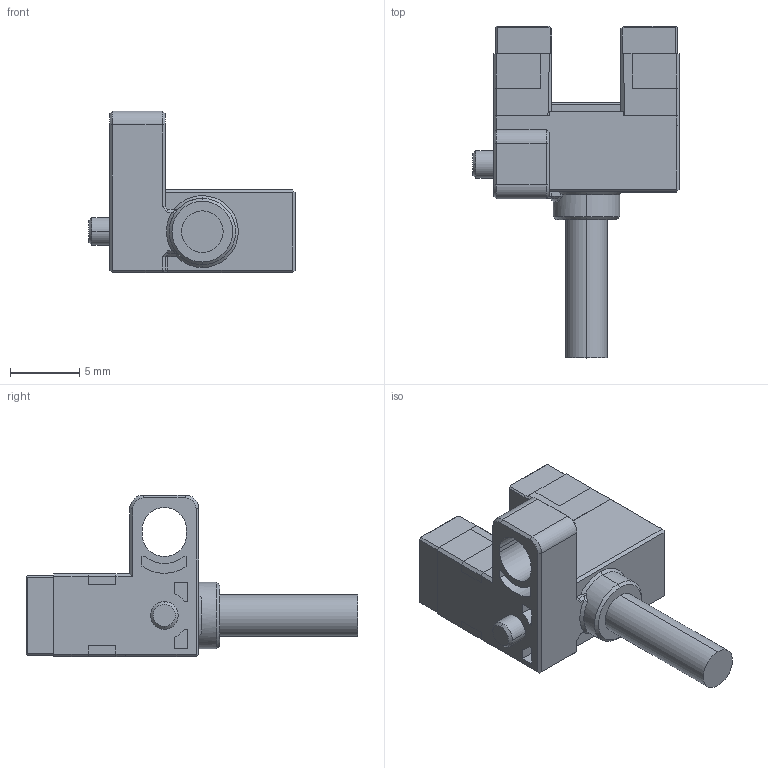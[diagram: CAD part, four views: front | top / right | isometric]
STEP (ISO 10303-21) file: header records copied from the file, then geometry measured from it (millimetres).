
FILE_DESCRIPTION (( 'STEP AP203' ), '1' );
FILE_NAME ('PU-F28.STEP', '2023-06-28T00:55:46', ( 'Windows User' ), ( 'P R C' ), 'SwSTEP 2.0', 'SolidWorks 2022', '' );
FILE_SCHEMA (( 'CONFIG_CONTROL_DESIGN' ));
Length unit declared in the file: millimetre
Products named in the file (4): F25外包胶^DD990XXXX-GE-F25-A (外形尺寸图专用); PU-F28; SD2008673-25包胶骨架-A1; 零件1^DD990XXXX-GE-F25-A (外形尺寸图专用)
Assembly tree (3 placements, depth 2):
  PU-F28
    F25外包胶^DD990XXXX-GE-F25-A (外形尺寸图专用)
    零件1^DD990XXXX-GE-F25-A (外形尺寸图专用)
    SD2008673-25包胶骨架-A1
Bounding box: 14.9 x 24 x 11.7 mm (x, y, z)
Volume: 796.1 mm3; surface area: 1851 mm2
Topology: 3 solids, 8 shells, 370 faces, 980 edges, 635 vertices
Faces by surface type: plane 313, cylinder 37, cone 18, bspline 2
Entity records: 11709 total; most frequent: CARTESIAN_POINT 2091, ORIENTED_EDGE 1960, DIRECTION 1805, EDGE_CURVE 980, VECTOR 875, LINE 875, VERTEX_POINT 635, AXIS2_PLACEMENT_3D 465
